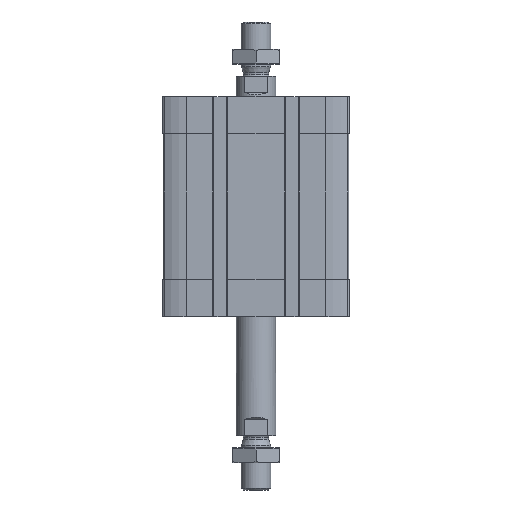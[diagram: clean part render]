
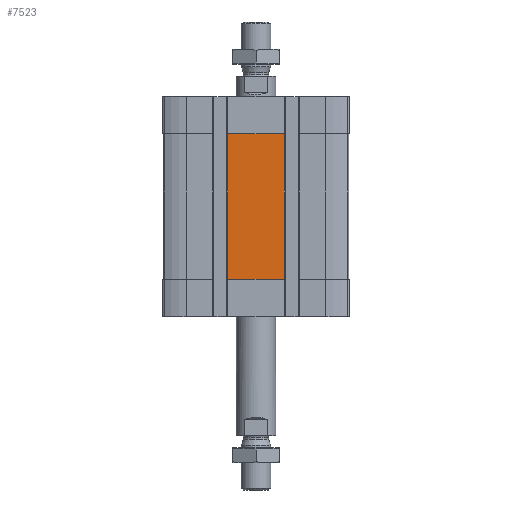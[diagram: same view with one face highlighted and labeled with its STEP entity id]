
A CAD part, front view. The second image highlights one B-rep face of the part: STEP entity #7523.
In plain terms, the highlighted planar face has unit normal (0, -1, 0).
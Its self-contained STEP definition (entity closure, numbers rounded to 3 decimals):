
#1051 = CARTESIAN_POINT ( 'NONE',  ( 11.4, -37.5, -15. ) ) ;
#1578 = DIRECTION ( 'NONE',  ( 1., 0., 0. ) ) ;
#1755 = CARTESIAN_POINT ( 'NONE',  ( -11.4, -37.5, -15. ) ) ;
#2420 = CARTESIAN_POINT ( 'NONE',  ( -11.4, -37.5, -74. ) ) ;
#2506 = CARTESIAN_POINT ( 'NONE',  ( -11.4, -37.5, -74. ) ) ;
#3055 = ORIENTED_EDGE ( 'NONE', *, *, #12422, .F. ) ;
#3647 = CARTESIAN_POINT ( 'NONE',  ( 11.4, -37.5, -74. ) ) ;
#4960 = LINE ( 'NONE', #2420, #10450 ) ;
#5193 = EDGE_LOOP ( 'NONE', ( #9778, #3055, #15154, #7435 ) ) ;
#6782 = EDGE_CURVE ( 'NONE', #11990, #14669, #14145, .T. ) ;
#7149 = PLANE ( 'NONE',  #11197 ) ;
#7228 = DIRECTION ( 'NONE',  ( 0., 0., -1. ) ) ;
#7435 = ORIENTED_EDGE ( 'NONE', *, *, #6782, .T. ) ;
#7446 = CARTESIAN_POINT ( 'NONE',  ( 11.4, -37.5, -74. ) ) ;
#7523 = ADVANCED_FACE ( 'NONE', ( #11073 ), #7149, .T. ) ;
#7573 = VECTOR ( 'NONE', #12982, 1000. ) ;
#7648 = DIRECTION ( 'NONE',  ( 0., 0., 1. ) ) ;
#9047 = DIRECTION ( 'NONE',  ( 0., 0., 1. ) ) ;
#9303 = VECTOR ( 'NONE', #1578, 1000. ) ;
#9479 = CARTESIAN_POINT ( 'NONE',  ( -11.4, -37.5, -15. ) ) ;
#9778 = ORIENTED_EDGE ( 'NONE', *, *, #13829, .F. ) ;
#10261 = LINE ( 'NONE', #2506, #7573 ) ;
#10450 = VECTOR ( 'NONE', #7648, 1000. ) ;
#10802 = LINE ( 'NONE', #9479, #9303 ) ;
#11073 = FACE_OUTER_BOUND ( 'NONE', #5193, .T. ) ;
#11197 = AXIS2_PLACEMENT_3D ( 'NONE', #12279, #16326, #7228 ) ;
#11949 = CARTESIAN_POINT ( 'NONE',  ( -11.4, -37.5, -74. ) ) ;
#11990 = VERTEX_POINT ( 'NONE', #7446 ) ;
#12279 = CARTESIAN_POINT ( 'NONE',  ( -11.4, -37.5, -74. ) ) ;
#12422 = EDGE_CURVE ( 'NONE', #16844, #17020, #4960, .T. ) ;
#12982 = DIRECTION ( 'NONE',  ( 1., 0., 0. ) ) ;
#13055 = VECTOR ( 'NONE', #9047, 1000. ) ;
#13829 = EDGE_CURVE ( 'NONE', #17020, #14669, #10802, .T. ) ;
#14145 = LINE ( 'NONE', #3647, #13055 ) ;
#14669 = VERTEX_POINT ( 'NONE', #1051 ) ;
#15154 = ORIENTED_EDGE ( 'NONE', *, *, #15959, .T. ) ;
#15959 = EDGE_CURVE ( 'NONE', #16844, #11990, #10261, .T. ) ;
#16326 = DIRECTION ( 'NONE',  ( 0., -1., 0. ) ) ;
#16844 = VERTEX_POINT ( 'NONE', #11949 ) ;
#17020 = VERTEX_POINT ( 'NONE', #1755 ) ;
